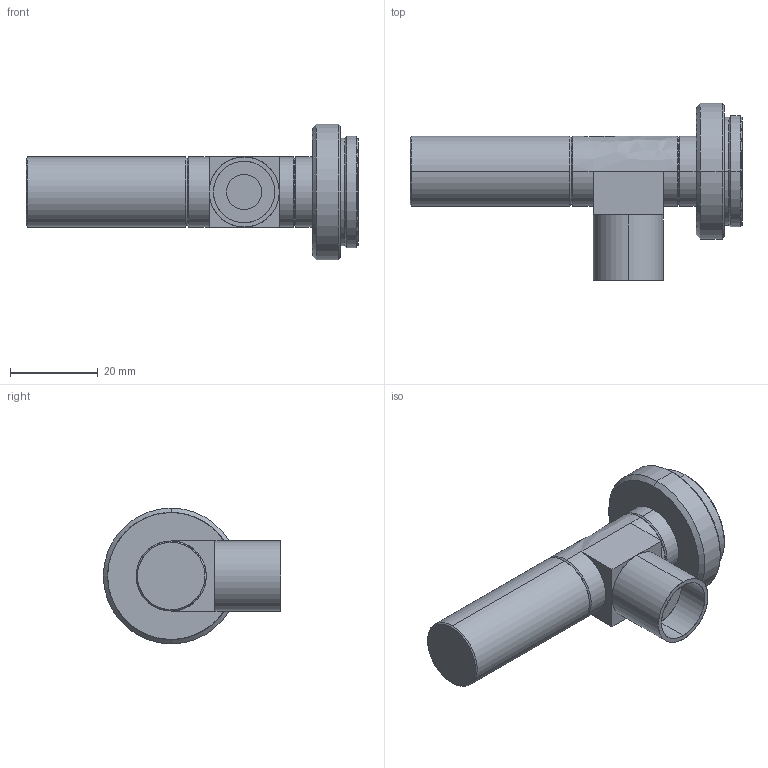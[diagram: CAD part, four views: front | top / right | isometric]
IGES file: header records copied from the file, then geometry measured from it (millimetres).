
Start section: SolidWorks IGES file using analytic representation for surfaces
Global section: file name: C:\Users\tsuji_vst\Documents\【作業フォルダ】\_3D\09 SOG\VS-TC\VS-TC08-120\VS-TC08-120CO.IGS; native system: SolidWorks 2018; preprocessor: SolidWorks 2018; author: tsuji_vst; date: 180710.130423; units: millimetre
Bounding box: 75.82 x 40.5 x 31 mm (x, y, z)
Surface area: 7518.4 mm2 (no closed solid volume)
Topology: 0 solids, 0 shells, 57 faces, 740 edges, 740 vertices
Faces by surface type: revolution 41, bspline 16
